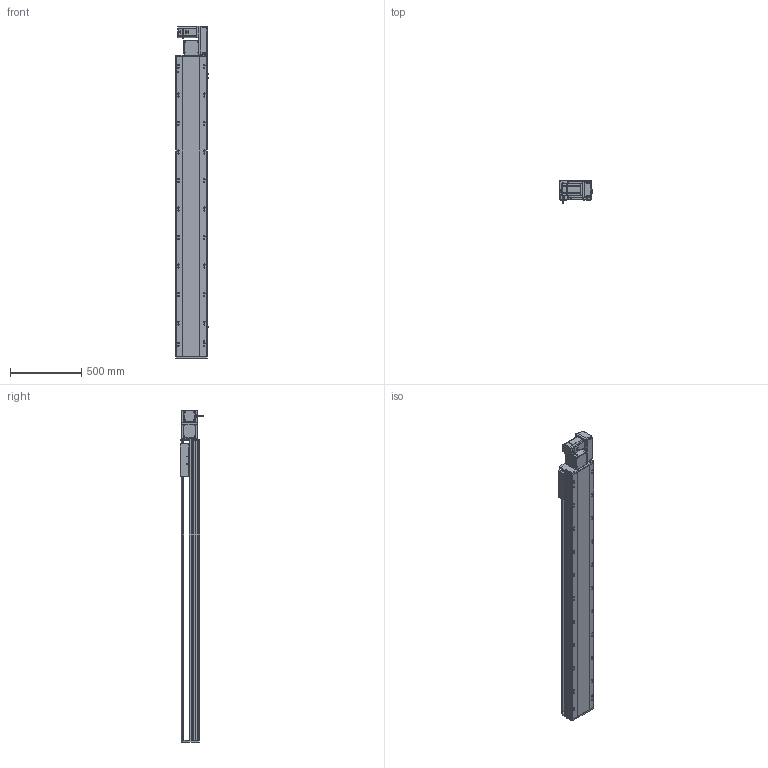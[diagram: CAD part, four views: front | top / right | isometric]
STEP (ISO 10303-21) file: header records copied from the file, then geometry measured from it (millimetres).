
FILE_DESCRIPTION (( 'STEP AP214' ), '1' );
FILE_NAME ('RTB22S-XX-1750-R-M75-C4.STEP', '2025-12-12T07:23:49', ( '' ), ( '' ), 'SwSTEP 2.0', 'SolidWorks 2018', '' );
FILE_SCHEMA (( 'AUTOMOTIVE_DESIGN' ));
Length unit declared in the file: millimetre
Products named in the file (14): RTB22S-GY-001耜裔^RTB22S-XX-XX-R-M75-C4; RTB22S-GY-005P^RTB22S-R-々湍釱蚾饜_RTB22S-XX-XX-R-M75-C4; RTB22S-GY-014--々湍釱^RTB22S-R-々湍釱蚾饜_RTB22S-XX-XX-R-M75-C4; OMRON EE-SX672 传感器^RTB22S-XX-XX-R-M75-C4; RTB22S-GY-007奻裔^RTB22S-XX-XX-R-M75-C4; RTB22S-GY-018P^RTB22S-R-々湍釱蚾饜_RTB22S-XX-XX-R-M75-C4; RTB22S-GY-008-M75--萇儂啣^RTB22S-R-々湍釱蚾饜_RTB22S-XX-XX-R-M75-C4; RTB22S-L-011菁釱^RTB22S-XX-XX-R-M75-C4; RTH22-GY-013外置感应片^RTB22S-XX-XX-R-M75-C4; RTB22S-R-々湍釱蚾饜^RTB22S-XX-XX-R-M75-C4; RTB22S-XX-1750-R-M75-C4; RTB22S-L-004賑釱^RTB22S-XX-XX-R-M75-C4; RTB22S-GY-017P^RTB22S-R-々湍釱蚾饜_RTB22S-XX-XX-R-M75-C4; 750W萇儂^RTB22S-XX-XX-R-M75-C4
Assembly tree (16 placements, depth 3):
  RTB22S-XX-1750-R-M75-C4
    RTB22S-L-011菁釱^RTB22S-XX-XX-R-M75-C4
    RTB22S-GY-001耜裔^RTB22S-XX-XX-R-M75-C4
    750W萇儂^RTB22S-XX-XX-R-M75-C4
    RTB22S-GY-007奻裔^RTB22S-XX-XX-R-M75-C4
    RTB22S-L-004賑釱^RTB22S-XX-XX-R-M75-C4
    RTH22-GY-013外置感应片^RTB22S-XX-XX-R-M75-C4
    OMRON EE-SX672 传感器^RTB22S-XX-XX-R-M75-C4  x3
    RTB22S-R-々湍釱蚾饜^RTB22S-XX-XX-R-M75-C4
      RTB22S-GY-014--々湍釱^RTB22S-R-々湍釱蚾饜_RTB22S-XX-XX-R-M75-C4
      RTB22S-GY-017P^RTB22S-R-々湍釱蚾饜_RTB22S-XX-XX-R-M75-C4  x2
      RTB22S-GY-005P^RTB22S-R-々湍釱蚾饜_RTB22S-XX-XX-R-M75-C4
      RTB22S-GY-008-M75--萇儂啣^RTB22S-R-々湍釱蚾饜_RTB22S-XX-XX-R-M75-C4
      RTB22S-GY-018P^RTB22S-R-々湍釱蚾饜_RTB22S-XX-XX-R-M75-C4
Bounding box: 238.5 x 162.7 x 2329 mm (x, y, z)
Volume: 30027889.6 mm3; surface area: 3089696.5 mm2
Topology: 15 solids, 15 shells, 2037 faces, 5536 edges, 3542 vertices
Faces by surface type: plane 921, cylinder 658, bspline 296, cone 150, sphere 8, torus 4
Entity records: 54742 total; most frequent: CARTESIAN_POINT 15616, ORIENTED_EDGE 7836, DIRECTION 7592, EDGE_CURVE 3918, AXIS2_PLACEMENT_3D 2698, VERTEX_POINT 2546, VECTOR 2196, LINE 2196
